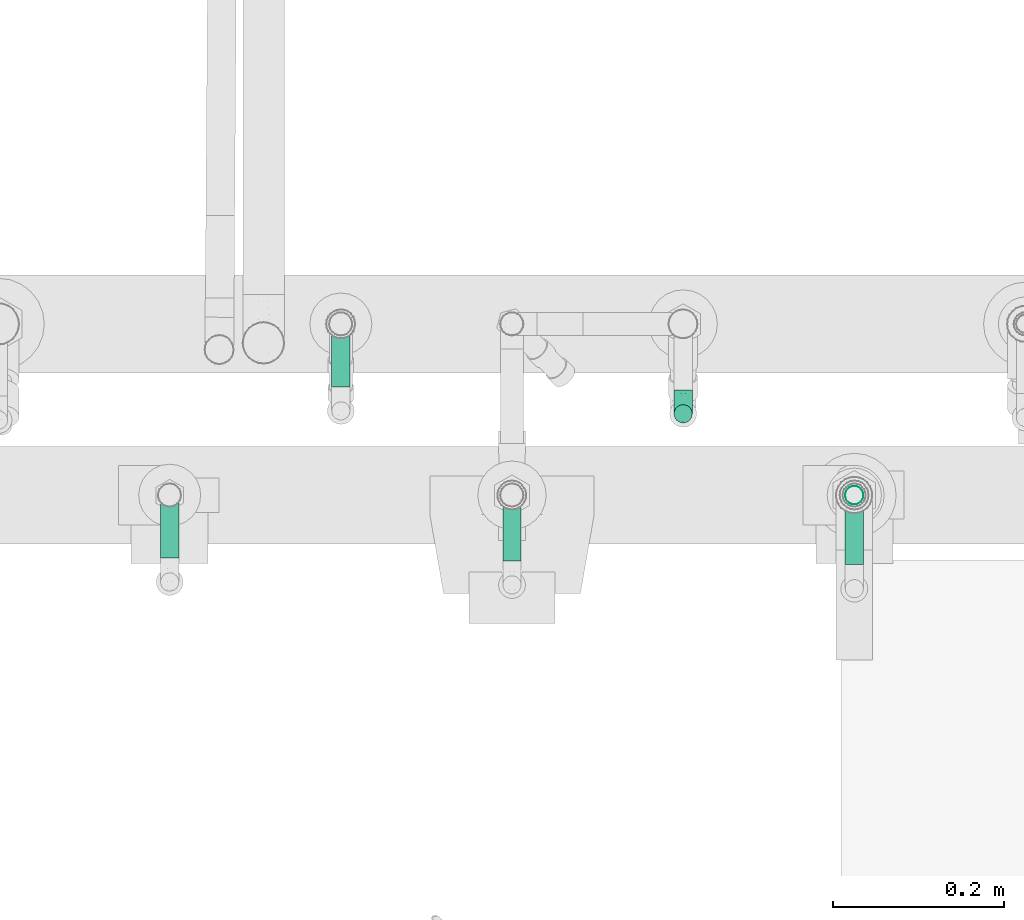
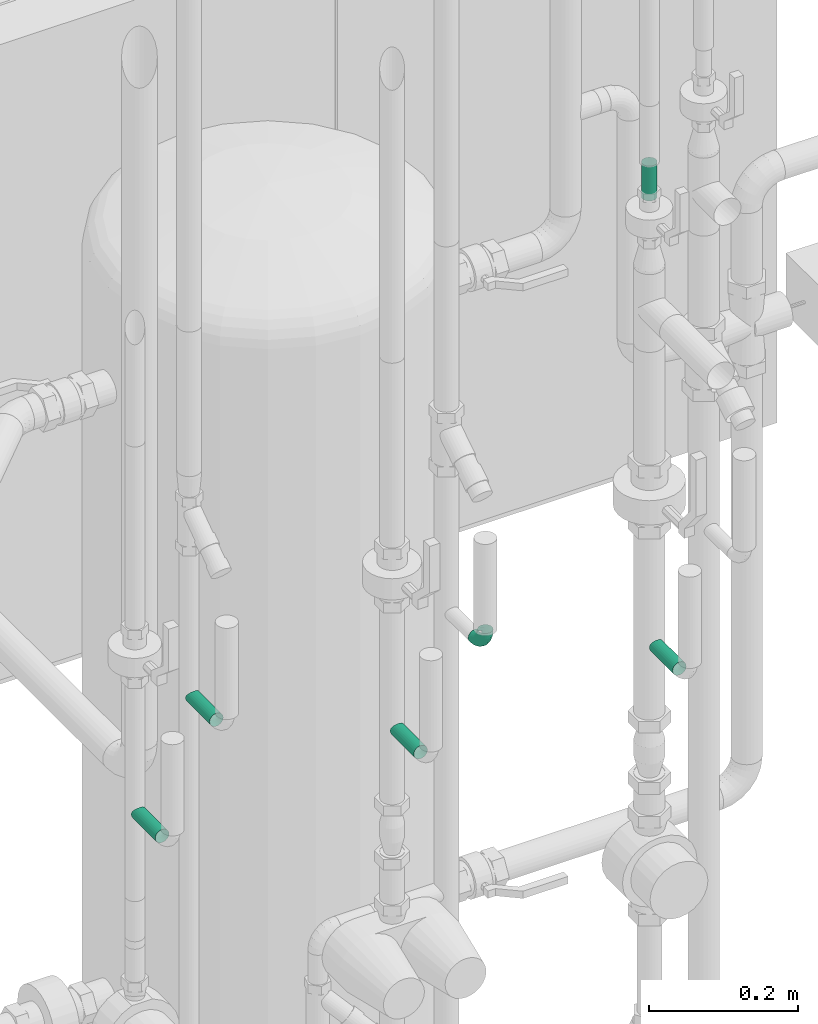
# One storey, part 193 of 374: 6 flow segments.
"""IFC2X3 building model written with IfcOpenShell, lengths in metres."""

from ifc_helpers import new_model, si_unit, direction, origin, place, context, subcontext, project, spatial, open_shell, surface_model, source, transform, mapped, element, save


model = new_model("IFC2X3")

# Units and contexts
model_context = context("Model", 3, precision=1e-05, world=origin(), true_north=direction((-0.4480736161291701, 0.8939966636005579)))
body_context = subcontext(model_context, "Body", "Model", "MODEL_VIEW")
ifc_project = project(units=[si_unit("LENGTHUNIT", "METRE"), si_unit("AREAUNIT", "SQUARE_METRE"), si_unit("VOLUMEUNIT", "CUBIC_METRE"), si_unit("PLANEANGLEUNIT", "RADIAN"), si_unit("THERMODYNAMICTEMPERATUREUNIT", "KELVIN"), si_unit("MASSUNIT", "GRAM", prefix="KILO"), si_unit("TIMEUNIT", "SECOND")], contexts=[model_context])

# Site, building, storey
site_placement = place(None, origin())
site = spatial("IfcSite", under=ifc_project, at=site_placement, Name="Site 1", CompositionType="ELEMENT")
building_placement = place(site_placement, origin())
building = spatial("IfcBuilding", under=site, at=building_placement, Name="Undefined", CompositionType="ELEMENT")
storey_placement = place(building_placement, origin())
storey = spatial("IfcBuildingStorey", under=building, at=storey_placement, Name="Rez de chauss\x8ee", CompositionType="ELEMENT", Elevation=0.0)

# Flow segments
shared_shape_1 = source(origin(), body_context, "Body", "SurfaceModel", [
    surface_model("IfcFaceBasedSurfaceModel", [(1.776356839e-15, 0.0027802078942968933, 0.0), (0.0, 0.0, 0.0), (0.06022698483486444, -7.105427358e-15, 1.776356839e-15), (0.060000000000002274, 0.0027802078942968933, 0.0), (0.0, -0.002685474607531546, -0.0007195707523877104), (0.06086354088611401, -0.0026854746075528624, -0.0007195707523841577), (1.776356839e-15, -0.00509320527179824, -0.002109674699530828), (0.0617764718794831, -0.0050932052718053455, -0.0021096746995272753), (1.776356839e-15, -0.007059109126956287, -0.004075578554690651), (0.06274838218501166, -0.0070591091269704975, -0.004075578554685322), (0.0, -0.00844921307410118, -0.00648330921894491), (0.063504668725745, -0.00844921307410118, -0.006483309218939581), (0.0, -0.009168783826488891, -0.009168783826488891), (0.0637924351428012, -0.009168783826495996, -0.009168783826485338), (0.0, -0.009168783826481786, -0.011948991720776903), (0.063504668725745, -0.009168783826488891, -0.011948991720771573), (1.776356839e-15, -0.00844921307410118, -0.014634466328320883), (0.06274838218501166, -0.008449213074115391, -0.01463446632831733), (1.776356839e-15, -0.007059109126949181, -0.017042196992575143), (0.0617764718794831, -0.007059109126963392, -0.01704219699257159), (0.0, -0.005093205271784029, -0.019008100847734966), (0.06086354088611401, -0.005093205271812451, -0.019008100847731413), (0.0, -0.0026854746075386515, -0.020398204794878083), (0.06022698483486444, -0.0026854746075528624, -0.02039820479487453), (1.776356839e-15, 7.105427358e-15, -0.021117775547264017), (0.060000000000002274, 7.105427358e-15, -0.021117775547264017), (1.776356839e-15, 0.002780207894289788, -0.02111777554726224), (0.06022698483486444, 0.002780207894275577, -0.021117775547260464), (1.776356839e-15, 0.005465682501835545, -0.020398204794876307), (0.06086354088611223, 0.005465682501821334, -0.020398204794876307), (1.776356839e-15, 0.007873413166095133, -0.01900810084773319), (0.0617764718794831, 0.007873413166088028, -0.01900810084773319), (0.0, 0.00983931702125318, -0.017042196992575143), (0.06274838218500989, 0.009839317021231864, -0.017042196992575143), (1.776356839e-15, 0.011229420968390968, -0.01463446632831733), (0.06350466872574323, 0.011229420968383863, -0.014634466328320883), (1.776356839e-15, 0.011948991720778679, -0.011948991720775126), (0.06379243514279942, 0.011948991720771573, -0.011948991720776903), (1.776356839e-15, 0.011948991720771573, -0.009168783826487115), (0.06350466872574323, 0.011948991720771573, -0.009168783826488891), (0.0, 0.011229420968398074, -0.006483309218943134), (0.06274838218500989, 0.011229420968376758, -0.006483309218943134), (1.776356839e-15, 0.009839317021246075, -0.0040755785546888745), (0.0617764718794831, 0.009839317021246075, -0.0040755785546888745), (1.776356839e-15, 0.007873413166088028, -0.0021096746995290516), (0.06086354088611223, 0.007873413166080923, -0.002109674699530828), (1.776356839e-15, 0.005465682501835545, -0.000719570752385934), (0.06022698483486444, 0.005465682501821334, -0.0007195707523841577)], [open_shell([[[0, 1, 2, 3]], [[1, 4, 5, 2]], [[4, 6, 7, 5]], [[6, 8, 9, 7]], [[8, 10, 11, 9]], [[10, 12, 13, 11]], [[12, 14, 15, 13]], [[14, 16, 17, 15]], [[16, 18, 19, 17]], [[18, 20, 21, 19]], [[20, 22, 23, 21]], [[22, 24, 25, 23]], [[24, 26, 27, 25]], [[26, 28, 29, 27]], [[28, 30, 31, 29]], [[30, 32, 33, 31]], [[32, 34, 35, 33]], [[34, 36, 37, 35]], [[36, 38, 39, 37]], [[38, 40, 41, 39]], [[40, 42, 43, 41]], [[42, 44, 45, 43]], [[44, 46, 47, 45]], [[46, 0, 3, 47]]])]),
])
flow_segment_1_placement = place(storey_placement, origin())
element("IfcFlowSegment", 1, at=flow_segment_1_placement, inside=storey, Name="Piquage sur circulaire 90°", ObjectType="Piquage sur circulaire 90°", context=body_context, shape_type="MappedRepresentation", body=[
    mapped(shared_shape_1, transform((53.26031844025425, 10.6411870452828, 1.475506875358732), x_axis=(0.0, 1.0, 0.0), y_axis=(-0.9914448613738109, 0.0, 0.1305261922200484), z_axis=(0.1305261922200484, 0.0, 0.9914448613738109))),
])
shared_shape_2 = source(origin(), body_context, "Body", "SurfaceModel", [
    surface_model("IfcFaceBasedSurfaceModel", [(0.010089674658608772, 0.0, 1.33226763e-15), (0.010042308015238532, 0.002779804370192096, 1.33226763e-15), (4.73666433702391e-05, 0.0027798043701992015, 4.4408921e-16), (0.0, 0.0, 0.0), (-0.009607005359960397, 0.00311462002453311, -0.0025651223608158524), (-0.00974587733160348, 0.0003379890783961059, -0.0025894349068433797), (-0.01826287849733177, 0.003761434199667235, -0.007520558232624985), (-0.018483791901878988, 0.000990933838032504, -0.007591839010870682), (-0.025330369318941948, 0.004676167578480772, -0.014528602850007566), (-0.025618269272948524, 0.001914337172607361, -0.014666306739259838), (-0.030327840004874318, 0.005796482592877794, -0.023111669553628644), (-0.030663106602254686, 0.003045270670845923, -0.023330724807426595), (-0.03291472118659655, 0.00704603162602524, -0.03268483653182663), (-0.03327450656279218, 0.004306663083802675, -0.0329946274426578), (0.009903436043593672, 0.005463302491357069, -0.000713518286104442), (0.000186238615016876, 0.005463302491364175, -0.0007135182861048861), (-0.009199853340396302, 0.005788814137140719, -0.0032073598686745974), (-0.017615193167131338, 0.006417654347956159, -0.008025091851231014), (-0.02448628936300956, 0.007306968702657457, -0.014838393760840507), (-0.029344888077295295, 0.008396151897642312, -0.023182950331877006), (-0.031859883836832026, 0.009610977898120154, -0.0324900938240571), (0.009682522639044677, 0.007867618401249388, -0.002091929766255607), (0.0004071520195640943, 0.007867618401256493, -0.002091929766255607), (-0.008552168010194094, 0.008178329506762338, -0.004472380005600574), (-0.0165848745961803, 0.008778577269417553, -0.00907105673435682), (-0.023143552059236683, 0.00962745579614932, -0.015574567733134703), (-0.027781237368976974, 0.010667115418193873, -0.023539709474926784), (-0.030181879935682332, 0.011826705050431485, -0.03242367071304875), (0.009394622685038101, 0.009828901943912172, -0.0040412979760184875), (0.000695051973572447, 0.009828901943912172, -0.0040412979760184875), (-0.007708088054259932, 0.010120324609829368, -0.006273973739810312), (-0.015242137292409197, 0.010683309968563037, -0.010587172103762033), (-0.02139366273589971, 0.011479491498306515, -0.01668695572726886), (-0.0257434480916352, 0.012454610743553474, -0.02415763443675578), (-0.027995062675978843, 0.013542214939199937, -0.03249009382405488), (0.00905935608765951, 0.011213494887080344, -0.006428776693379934), (0.0010303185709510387, 0.01121349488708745, -0.006428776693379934), (-0.006725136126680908, 0.011482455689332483, -0.00848936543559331), (-0.0136784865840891, 0.01200204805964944, -0.01247011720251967), (-0.01935587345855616, 0.012736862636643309, -0.018099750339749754), (-0.02337039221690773, 0.013636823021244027, -0.024994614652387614), (-0.02544846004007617, 0.014640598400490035, -0.03268483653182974), (0.008699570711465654, 0.01192703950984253, -0.009091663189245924), (0.001390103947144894, 0.01192703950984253, -0.009091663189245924), (-0.005670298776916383, 0.01217189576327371, -0.010967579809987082), (-0.01200048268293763, 0.012644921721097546, -0.014591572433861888), (-0.017169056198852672, 0.013313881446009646, -0.01971667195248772), (-0.02082378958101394, 0.014133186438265, -0.025993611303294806), (-0.02271561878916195, 0.01504700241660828, -0.032994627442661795), (0.008339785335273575, 0.011920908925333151, -0.011848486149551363), (0.0017498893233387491, 0.011920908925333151, -0.011848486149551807), (-0.0046154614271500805, 0.012141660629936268, -0.013539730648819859), (-0.01032247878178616, 0.012568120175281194, -0.016806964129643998), (-0.014982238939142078, 0.013171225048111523, -0.02142753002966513), (-0.018277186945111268, 0.01390987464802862, -0.027086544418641), (-0.01998277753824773, 0.01473373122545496, -0.033398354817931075), (0.008004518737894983, 0.011195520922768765, -0.01451137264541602), (0.0020851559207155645, 0.011195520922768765, -0.014511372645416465), (-0.003632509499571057, 0.011393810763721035, -0.016030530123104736), (-0.008758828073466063, 0.011776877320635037, -0.018965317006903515), (-0.01294444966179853, 0.012318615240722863, -0.023115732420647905), (-0.01590413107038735, 0.012982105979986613, -0.028198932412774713), (-0.017436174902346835, 0.013722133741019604, -0.03386850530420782), (0.007716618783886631, 0.009800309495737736, -0.016898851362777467), (0.002373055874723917, 0.009800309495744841, -0.016898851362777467), (-0.0027884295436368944, 0.009979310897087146, -0.018270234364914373), (-0.007416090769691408, 0.010325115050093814, -0.020919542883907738), (-0.01119456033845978, 0.010814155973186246, -0.024666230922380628), (-0.013866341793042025, 0.011413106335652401, -0.02925496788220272), (-0.015249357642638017, 0.012081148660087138, -0.03437303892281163), (0.007495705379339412, 0.007830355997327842, -0.018848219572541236), (0.002593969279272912, 0.007830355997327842, -0.018848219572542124), (-0.00214074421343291, 0.00799455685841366, -0.02010621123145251), (-0.006385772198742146, 0.008311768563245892, -0.022536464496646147), (-0.009851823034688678, 0.008760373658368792, -0.025973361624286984), (-0.012302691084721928, 0.00930980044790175, -0.03018268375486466), (-0.013571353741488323, 0.009922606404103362, -0.034877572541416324), (0.007356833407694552, 0.0054199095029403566, -0.020226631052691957), (0.002732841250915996, 0.005419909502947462, -0.0202266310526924), (-0.0017335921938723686, 0.005574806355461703, -0.021413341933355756), (-0.005738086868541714, 0.005874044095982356, -0.023705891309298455), (-0.009007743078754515, 0.006297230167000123, -0.026948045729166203), (-0.011319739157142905, 0.006815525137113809, -0.030918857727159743), (-0.012516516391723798, 0.007393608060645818, -0.03534772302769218), (0.007309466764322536, 0.0027332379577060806, -0.020940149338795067), (0.0027802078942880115, 0.002733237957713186, -0.020940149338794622), (-0.001594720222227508, 0.0028849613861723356, -0.022102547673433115), (-0.0055171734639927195, 0.0031780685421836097, -0.024348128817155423), (-0.008719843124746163, 0.003592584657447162, -0.027523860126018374), (-0.010984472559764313, 0.004100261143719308, -0.03141332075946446), (-0.012156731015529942, 0.004666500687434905, -0.035751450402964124), (0.007356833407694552, -4.656641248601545e-05, -0.020940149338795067), (0.002732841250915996, -4.6566412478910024e-05, -0.02094014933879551), (-0.0017335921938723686, 0.00010833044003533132, -0.022126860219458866), (-0.005738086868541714, 0.00040756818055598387, -0.024419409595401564), (-0.009007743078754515, 0.0008307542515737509, -0.027661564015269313), (-0.011319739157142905, 0.0013490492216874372, -0.03163237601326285), (-0.012516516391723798, 0.0019271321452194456, -0.03606124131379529), (0.007495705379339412, -0.002730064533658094, -0.020226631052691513), (0.002593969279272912, -0.002730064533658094, -0.0202266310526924), (-0.00214074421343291, -0.002565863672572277, -0.021484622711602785), (-0.006385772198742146, -0.002248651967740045, -0.023914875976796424), (-0.009851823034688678, -0.0018000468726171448, -0.02735177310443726), (-0.012302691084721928, -0.0012506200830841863, -0.031561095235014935), (-0.013571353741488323, -0.0006378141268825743, -0.0362559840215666), (0.007716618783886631, -0.005134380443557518, -0.01884821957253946), (0.002373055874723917, -0.0051343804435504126, -0.01884821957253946), (-0.0027884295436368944, -0.004955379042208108, -0.020219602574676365), (-0.007416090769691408, -0.00460957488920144, -0.02286891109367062), (-0.01119456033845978, -0.004120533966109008, -0.026615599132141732), (-0.013866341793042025, -0.0035215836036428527, -0.031204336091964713), (-0.015249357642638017, -0.002853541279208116, -0.03632240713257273), (0.008004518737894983, -0.007095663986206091, -0.01689885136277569), (0.0020851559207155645, -0.007095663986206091, -0.016898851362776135), (-0.003632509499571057, -0.006897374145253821, -0.018418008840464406), (-0.008758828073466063, -0.006514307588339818, -0.021352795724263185), (-0.01294444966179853, -0.005972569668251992, -0.025503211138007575), (-0.01590413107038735, -0.005309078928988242, -0.030586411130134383), (-0.017436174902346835, -0.0045690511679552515, -0.03625598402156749), (0.008339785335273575, -0.008480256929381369, -0.014511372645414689), (0.0017498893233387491, -0.008480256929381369, -0.014511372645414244), (-0.0046154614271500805, -0.008259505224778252, -0.016202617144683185), (-0.01032247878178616, -0.007833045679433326, -0.019469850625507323), (-0.014982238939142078, -0.007229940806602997, -0.024090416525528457), (-0.018277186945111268, -0.006491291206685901, -0.029749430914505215), (-0.01998277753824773, -0.00566743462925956, -0.0360612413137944), (0.008699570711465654, -0.009193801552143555, -0.011848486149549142), (0.001390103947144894, -0.009193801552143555, -0.011848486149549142), (-0.005670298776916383, -0.008948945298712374, -0.013724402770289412), (-0.01200048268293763, -0.008475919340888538, -0.017348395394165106), (-0.017169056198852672, -0.007806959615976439, -0.022473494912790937), (-0.02082378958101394, -0.006987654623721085, -0.028750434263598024), (-0.02271561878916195, -0.006073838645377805, -0.035751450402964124), (0.00905935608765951, -0.009187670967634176, -0.00909166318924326), (0.0010303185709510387, -0.00918767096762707, -0.00909166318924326), (-0.006725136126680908, -0.008918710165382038, -0.011152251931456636), (-0.0136784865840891, -0.00839911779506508, -0.015133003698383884), (-0.01935587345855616, -0.007664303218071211, -0.02076263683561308), (-0.02337039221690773, -0.006764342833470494, -0.02765750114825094), (-0.02544846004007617, -0.005760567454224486, -0.03534772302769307), (0.009394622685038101, -0.008462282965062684, -0.006428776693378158), (0.000695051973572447, -0.008462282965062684, -0.006428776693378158), (-0.007708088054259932, -0.008170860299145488, -0.008661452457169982), (-0.015242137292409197, -0.0076078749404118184, -0.012974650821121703), (-0.02139366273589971, -0.00681169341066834, -0.01907443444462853), (-0.0257434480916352, -0.005836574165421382, -0.02654511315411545), (-0.027995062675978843, -0.004748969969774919, -0.03487757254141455), (0.009682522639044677, -0.007067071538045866, -0.004041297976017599), (0.0004071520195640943, -0.0070670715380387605, -0.004041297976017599), (-0.008552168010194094, -0.006756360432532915, -0.006421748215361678), (-0.0165848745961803, -0.0061561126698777, -0.011020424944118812), (-0.023143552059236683, -0.0053072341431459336, -0.017523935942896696), (-0.027781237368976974, -0.0042675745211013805, -0.02548907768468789), (-0.030181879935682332, -0.0031079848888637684, -0.03437303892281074), (0.009903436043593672, -0.005097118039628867, -0.0020919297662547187), (0.000186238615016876, -0.005097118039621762, -0.002091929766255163), (-0.009199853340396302, -0.004771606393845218, -0.004585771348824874), (-0.017615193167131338, -0.004142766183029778, -0.009403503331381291), (-0.02448628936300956, -0.0032534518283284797, -0.016216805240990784), (-0.029344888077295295, -0.0021642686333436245, -0.024561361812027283), (-0.031859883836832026, -0.0009494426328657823, -0.033868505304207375), (0.010042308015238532, -0.002686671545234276, -0.0007135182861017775), (4.73666433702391e-05, -0.0026866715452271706, -0.0007135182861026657), (-0.009607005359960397, -0.002351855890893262, -0.003278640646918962), (-0.01826287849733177, -0.0017050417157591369, -0.008234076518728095), (-0.025330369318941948, -0.0007903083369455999, -0.015242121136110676), (-0.030327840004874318, 0.0003300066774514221, -0.023825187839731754), (-0.03291472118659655, 0.0015795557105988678, -0.03339835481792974)], [open_shell([[[0, 1, 2, 3]], [[3, 2, 4, 5]], [[5, 4, 6, 7]], [[7, 6, 8, 9]], [[9, 8, 10, 11]], [[11, 10, 12, 13]], [[1, 14, 15, 2]], [[2, 15, 16, 4]], [[4, 16, 17, 6]], [[6, 17, 18, 8]], [[8, 18, 19, 10]], [[10, 19, 20, 12]], [[14, 21, 22, 15]], [[15, 22, 23, 16]], [[16, 23, 24, 17]], [[17, 24, 25, 18]], [[18, 25, 26, 19]], [[19, 26, 27, 20]], [[21, 28, 29, 22]], [[22, 29, 30, 23]], [[23, 30, 31, 24]], [[24, 31, 32, 25]], [[25, 32, 33, 26]], [[26, 33, 34, 27]], [[28, 35, 36, 29]], [[29, 36, 37, 30]], [[30, 37, 38, 31]], [[31, 38, 39, 32]], [[32, 39, 40, 33]], [[33, 40, 41, 34]], [[35, 42, 43, 36]], [[36, 43, 44, 37]], [[37, 44, 45, 38]], [[38, 45, 46, 39]], [[39, 46, 47, 40]], [[40, 47, 48, 41]], [[42, 49, 50, 43]], [[43, 50, 51, 44]], [[44, 51, 52, 45]], [[45, 52, 53, 46]], [[46, 53, 54, 47]], [[47, 54, 55, 48]], [[49, 56, 57, 50]], [[50, 57, 58, 51]], [[51, 58, 59, 52]], [[52, 59, 60, 53]], [[53, 60, 61, 54]], [[54, 61, 62, 55]], [[56, 63, 64, 57]], [[57, 64, 65, 58]], [[58, 65, 66, 59]], [[59, 66, 67, 60]], [[60, 67, 68, 61]], [[61, 68, 69, 62]], [[63, 70, 71, 64]], [[64, 71, 72, 65]], [[65, 72, 73, 66]], [[66, 73, 74, 67]], [[67, 74, 75, 68]], [[68, 75, 76, 69]], [[70, 77, 78, 71]], [[71, 78, 79, 72]], [[72, 79, 80, 73]], [[73, 80, 81, 74]], [[74, 81, 82, 75]], [[75, 82, 83, 76]], [[77, 84, 85, 78]], [[78, 85, 86, 79]], [[79, 86, 87, 80]], [[80, 87, 88, 81]], [[81, 88, 89, 82]], [[82, 89, 90, 83]], [[84, 91, 92, 85]], [[85, 92, 93, 86]], [[86, 93, 94, 87]], [[87, 94, 95, 88]], [[88, 95, 96, 89]], [[89, 96, 97, 90]], [[91, 98, 99, 92]], [[92, 99, 100, 93]], [[93, 100, 101, 94]], [[94, 101, 102, 95]], [[95, 102, 103, 96]], [[96, 103, 104, 97]], [[98, 105, 106, 99]], [[99, 106, 107, 100]], [[100, 107, 108, 101]], [[101, 108, 109, 102]], [[102, 109, 110, 103]], [[103, 110, 111, 104]], [[105, 112, 113, 106]], [[106, 113, 114, 107]], [[107, 114, 115, 108]], [[108, 115, 116, 109]], [[109, 116, 117, 110]], [[110, 117, 118, 111]], [[112, 119, 120, 113]], [[113, 120, 121, 114]], [[114, 121, 122, 115]], [[115, 122, 123, 116]], [[116, 123, 124, 117]], [[117, 124, 125, 118]], [[119, 126, 127, 120]], [[120, 127, 128, 121]], [[121, 128, 129, 122]], [[122, 129, 130, 123]], [[123, 130, 131, 124]], [[124, 131, 132, 125]], [[126, 133, 134, 127]], [[127, 134, 135, 128]], [[128, 135, 136, 129]], [[129, 136, 137, 130]], [[130, 137, 138, 131]], [[131, 138, 139, 132]], [[133, 140, 141, 134]], [[134, 141, 142, 135]], [[135, 142, 143, 136]], [[136, 143, 144, 137]], [[137, 144, 145, 138]], [[138, 145, 146, 139]], [[140, 147, 148, 141]], [[141, 148, 149, 142]], [[142, 149, 150, 143]], [[143, 150, 151, 144]], [[144, 151, 152, 145]], [[145, 152, 153, 146]], [[147, 154, 155, 148]], [[148, 155, 156, 149]], [[149, 156, 157, 150]], [[150, 157, 158, 151]], [[151, 158, 159, 152]], [[152, 159, 160, 153]], [[154, 161, 162, 155]], [[155, 162, 163, 156]], [[156, 163, 164, 157]], [[157, 164, 165, 158]], [[158, 165, 166, 159]], [[159, 166, 167, 160]], [[161, 0, 3, 162]], [[162, 3, 5, 163]], [[163, 5, 7, 164]], [[164, 7, 9, 165]], [[165, 9, 11, 166]], [[166, 11, 13, 167]]])]),
])
flow_segment_2_placement = place(storey_placement, origin())
element("IfcFlowSegment", 2, at=flow_segment_2_placement, inside=storey, Name="Tube coudé", ObjectType="Tube coudé", context=body_context, shape_type="MappedRepresentation", body=[
    mapped(shared_shape_2, transform((53.45756201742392, 10.831183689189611, 1.4558867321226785), x_axis=(0.0, 0.9914448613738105, -0.13052619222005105), y_axis=(0.9915887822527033, 0.016893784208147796, 0.12832103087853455), z_axis=(0.1294283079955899, -0.12942830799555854, -0.9831056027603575))),
])
shared_shape_3 = source(origin(), body_context, "Body", "SurfaceModel", [
    surface_model("IfcFaceBasedSurfaceModel", [(1.776356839e-15, 0.0027802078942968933, 0.0), (0.0, 0.0, 0.0), (0.060285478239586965, 0.0, 0.0), (0.060000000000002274, 0.0027802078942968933, 0.0), (0.0, -0.002685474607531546, -0.0007195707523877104), (0.06109901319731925, -0.002685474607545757, -0.0007195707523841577), (1.776356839e-15, -0.00509320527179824, -0.002109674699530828), (0.062305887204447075, -0.00509320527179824, -0.002109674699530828), (1.776356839e-15, -0.007059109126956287, -0.004075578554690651), (0.06366043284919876, -0.007059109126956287, -0.004075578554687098), (0.0, -0.00844921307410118, -0.00648330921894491), (0.06478525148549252, -0.008449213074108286, -0.006483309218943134), (0.0, -0.009168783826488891, -0.009168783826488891), (0.06523537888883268, -0.009168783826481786, -0.009168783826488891), (0.0, -0.009168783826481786, -0.011948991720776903), (0.06478525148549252, -0.009168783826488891, -0.011948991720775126), (1.776356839e-15, -0.00844921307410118, -0.014634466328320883), (0.06366043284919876, -0.00844921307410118, -0.014634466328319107), (1.776356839e-15, -0.007059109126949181, -0.017042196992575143), (0.062305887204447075, -0.007059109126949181, -0.017042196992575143), (0.0, -0.005093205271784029, -0.019008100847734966), (0.06109901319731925, -0.00509320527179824, -0.019008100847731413), (0.0, -0.0026854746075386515, -0.020398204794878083), (0.060285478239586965, -0.002685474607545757, -0.020398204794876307), (1.776356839e-15, 7.105427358e-15, -0.021117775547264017), (0.060000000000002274, 7.105427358e-15, -0.021117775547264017), (1.776356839e-15, 0.002780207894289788, -0.02111777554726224), (0.060285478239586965, 0.0027802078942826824, -0.021117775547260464), (1.776356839e-15, 0.005465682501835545, -0.020398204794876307), (0.06109901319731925, 0.005465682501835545, -0.02039820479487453), (1.776356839e-15, 0.007873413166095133, -0.01900810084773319), (0.062305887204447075, 0.007873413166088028, -0.019008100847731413), (0.0, 0.00983931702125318, -0.017042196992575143), (0.06366043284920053, 0.009839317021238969, -0.01704219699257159), (1.776356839e-15, 0.011229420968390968, -0.01463446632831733), (0.0647852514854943, 0.011229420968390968, -0.01463446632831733), (1.776356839e-15, 0.011948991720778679, -0.011948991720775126), (0.06523537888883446, 0.011948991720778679, -0.01194899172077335), (1.776356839e-15, 0.011948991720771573, -0.009168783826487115), (0.0647852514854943, 0.011948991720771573, -0.009168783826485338), (0.0, 0.011229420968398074, -0.006483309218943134), (0.06366043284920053, 0.011229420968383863, -0.006483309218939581), (1.776356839e-15, 0.009839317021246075, -0.0040755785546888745), (0.062305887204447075, 0.009839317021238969, -0.004075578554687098), (1.776356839e-15, 0.007873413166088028, -0.0021096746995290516), (0.06109901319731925, 0.007873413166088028, -0.0021096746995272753), (1.776356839e-15, 0.005465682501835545, -0.000719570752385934), (0.060285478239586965, 0.005465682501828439, -0.0007195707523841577)], [open_shell([[[0, 1, 2, 3]], [[1, 4, 5, 2]], [[4, 6, 7, 5]], [[6, 8, 9, 7]], [[8, 10, 11, 9]], [[10, 12, 13, 11]], [[12, 14, 15, 13]], [[14, 16, 17, 15]], [[16, 18, 19, 17]], [[18, 20, 21, 19]], [[20, 22, 23, 21]], [[22, 24, 25, 23]], [[24, 26, 27, 25]], [[26, 28, 29, 27]], [[28, 30, 31, 29]], [[30, 32, 33, 31]], [[32, 34, 35, 33]], [[34, 36, 37, 35]], [[36, 38, 39, 37]], [[38, 40, 41, 39]], [[40, 42, 43, 41]], [[42, 44, 45, 43]], [[44, 46, 47, 45]], [[46, 0, 3, 47]]])]),
])
flow_segment_3_placement = place(storey_placement, origin())
element("IfcFlowSegment", 3, at=flow_segment_3_placement, inside=storey, Name="Piquage sur circulaire 90°", ObjectType="Piquage sur circulaire 90°", context=body_context, shape_type="MappedRepresentation", body=[
    mapped(shared_shape_3, transform((52.86031844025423, 10.644587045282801, 1.475506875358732), x_axis=(0.0, 1.0, 0.0), y_axis=(-0.9914448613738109, 0.0, 0.1305261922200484), z_axis=(0.1305261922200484, 0.0, 0.9914448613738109))),
])
flow_segment_4_placement = place(storey_placement, origin())
element("IfcFlowSegment", 4, at=flow_segment_4_placement, inside=storey, Name="Piquage sur circulaire 90°", ObjectType="Piquage sur circulaire 90°", context=body_context, shape_type="MappedRepresentation", body=[
    mapped(shared_shape_3, transform((53.06031844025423, 10.84458704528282, 1.4755068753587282), x_axis=(0.0, 1.0, 0.0), y_axis=(-0.9914448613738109, 0.0, 0.1305261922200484), z_axis=(0.1305261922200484, 0.0, 0.9914448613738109))),
])
shared_shape_4 = source(origin(), body_context, "Body", "SurfaceModel", [
    surface_model("IfcFaceBasedSurfaceModel", [(1.776356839e-15, 0.0027802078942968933, 0.0), (0.0, 0.0, 0.0), (0.06017995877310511, 0.0, 0.0), (0.060000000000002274, 0.0027802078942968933, 0.0), (0.0, -0.002685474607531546, -0.0007195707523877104), (0.06067965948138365, -0.0026854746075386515, -0.0007195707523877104), (1.776356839e-15, -0.00509320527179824, -0.002109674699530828), (0.06138261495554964, -0.0050932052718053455, -0.002109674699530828), (1.776356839e-15, -0.007059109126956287, -0.004075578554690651), (0.062111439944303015, -0.007059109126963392, -0.0040755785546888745), (0.0, -0.00844921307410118, -0.00648330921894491), (0.06266313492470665, -0.00844921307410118, -0.00648330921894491), (0.0, -0.009168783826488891, -0.009168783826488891), (0.06286921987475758, -0.009168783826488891, -0.009168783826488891), (0.0, -0.009168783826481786, -0.011948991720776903), (0.06266313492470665, -0.009168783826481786, -0.011948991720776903), (1.776356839e-15, -0.00844921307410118, -0.014634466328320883), (0.062111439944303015, -0.008449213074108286, -0.014634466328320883), (1.776356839e-15, -0.007059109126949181, -0.017042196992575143), (0.06138261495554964, -0.007059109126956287, -0.017042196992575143), (0.0, -0.005093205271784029, -0.019008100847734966), (0.06067965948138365, -0.005093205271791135, -0.019008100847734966), (0.0, -0.0026854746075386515, -0.020398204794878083), (0.06017995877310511, -0.002685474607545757, -0.020398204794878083), (1.776356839e-15, 7.105427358e-15, -0.021117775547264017), (0.060000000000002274, 7.105427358e-15, -0.021117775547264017), (1.776356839e-15, 0.002780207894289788, -0.02111777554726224), (0.06017995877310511, 0.002780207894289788, -0.021117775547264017), (1.776356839e-15, 0.005465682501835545, -0.020398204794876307), (0.06067965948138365, 0.005465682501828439, -0.02039820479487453), (1.776356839e-15, 0.007873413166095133, -0.01900810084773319), (0.06138261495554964, 0.007873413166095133, -0.01900810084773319), (0.0, 0.00983931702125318, -0.017042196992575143), (0.062111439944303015, 0.00983931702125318, -0.017042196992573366), (1.776356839e-15, 0.011229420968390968, -0.01463446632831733), (0.06266313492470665, 0.011229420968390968, -0.014634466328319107), (1.776356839e-15, 0.011948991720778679, -0.011948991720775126), (0.06286921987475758, 0.011948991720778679, -0.01194899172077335), (1.776356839e-15, 0.011948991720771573, -0.009168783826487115), (0.06266313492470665, 0.011948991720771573, -0.009168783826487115), (0.0, 0.011229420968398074, -0.006483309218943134), (0.062111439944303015, 0.011229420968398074, -0.006483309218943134), (1.776356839e-15, 0.009839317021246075, -0.0040755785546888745), (0.06138261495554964, 0.009839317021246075, -0.004075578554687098), (1.776356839e-15, 0.007873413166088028, -0.0021096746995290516), (0.06067965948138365, 0.007873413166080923, -0.0021096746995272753), (1.776356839e-15, 0.005465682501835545, -0.000719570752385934), (0.06017995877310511, 0.005465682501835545, -0.000719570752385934)], [open_shell([[[0, 1, 2, 3]], [[1, 4, 5, 2]], [[4, 6, 7, 5]], [[6, 8, 9, 7]], [[8, 10, 11, 9]], [[10, 12, 13, 11]], [[12, 14, 15, 13]], [[14, 16, 17, 15]], [[16, 18, 19, 17]], [[18, 20, 21, 19]], [[20, 22, 23, 21]], [[22, 24, 25, 23]], [[24, 26, 27, 25]], [[26, 28, 29, 27]], [[28, 30, 31, 29]], [[30, 32, 33, 31]], [[32, 34, 35, 33]], [[34, 36, 37, 35]], [[36, 38, 39, 37]], [[38, 40, 41, 39]], [[40, 42, 43, 41]], [[42, 44, 45, 43]], [[44, 46, 47, 45]], [[46, 0, 3, 47]]])]),
])
flow_segment_5_placement = place(storey_placement, origin())
element("IfcFlowSegment", 5, at=flow_segment_5_placement, inside=storey, Name="Piquage sur circulaire 90°", ObjectType="Piquage sur circulaire 90°", context=body_context, shape_type="MappedRepresentation", body=[
    mapped(shared_shape_4, transform((53.660318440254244, 10.636837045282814, 1.475506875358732), x_axis=(0.0, 1.0, 0.0), y_axis=(-0.9914448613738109, 0.0, 0.1305261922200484), z_axis=(0.1305261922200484, 0.0, 0.9914448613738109))),
])
shared_shape_5 = source(origin(), body_context, "Body", "SurfaceModel", [
    surface_model("IfcFaceBasedSurfaceModel", [(1.776356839e-15, 0.0027802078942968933, 0.0), (0.0, 0.0, 0.0), (0.05727120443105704, 0.0, 0.0), (0.05727120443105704, 0.0027802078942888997, 0.0), (0.0, -0.002685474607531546, -0.0007195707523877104), (0.05727120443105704, -0.0026854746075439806, -0.0007195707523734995), (1.776356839e-15, -0.00509320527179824, -0.002109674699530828), (0.05727120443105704, -0.0050932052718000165, -0.0021096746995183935), (1.776356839e-15, -0.007059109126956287, -0.004075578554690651), (0.05727120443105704, -0.007059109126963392, -0.00407557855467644), (0.0, -0.00844921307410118, -0.00648330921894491), (0.05727120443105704, -0.008449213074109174, -0.006483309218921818), (0.0, -0.009168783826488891, -0.009168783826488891), (0.05727120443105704, -0.009168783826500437, -0.009168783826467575), (0.0, -0.009168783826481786, -0.011948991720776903), (0.05727120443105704, -0.009168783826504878, -0.011948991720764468), (1.776356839e-15, -0.00844921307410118, -0.014634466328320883), (0.05727120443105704, -0.00844921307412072, -0.014634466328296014), (1.776356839e-15, -0.007059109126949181, -0.017042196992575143), (0.05727120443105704, -0.007059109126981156, -0.017042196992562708), (0.0, -0.005093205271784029, -0.019008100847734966), (0.05727120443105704, -0.005093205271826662, -0.01900810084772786), (0.0, -0.0026854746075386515, -0.020398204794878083), (0.05727120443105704, -0.0026854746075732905, -0.02039820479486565), (1.776356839e-15, 7.105427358e-15, -0.021117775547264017), (0.05727120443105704, -2.930988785e-14, -0.021117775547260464), (1.776356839e-15, 0.002780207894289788, -0.02111777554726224), (0.05727120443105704, 0.0027802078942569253, -0.021117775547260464), (1.776356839e-15, 0.005465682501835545, -0.020398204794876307), (0.05727120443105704, 0.00546568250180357, -0.020398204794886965), (1.776356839e-15, 0.007873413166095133, -0.01900810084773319), (0.05727120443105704, 0.00787341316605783, -0.01900810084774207), (0.0, 0.00983931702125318, -0.017042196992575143), (0.05727120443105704, 0.009839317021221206, -0.01704219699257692), (1.776356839e-15, 0.011229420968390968, -0.01463446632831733), (0.05727120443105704, 0.0112294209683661, -0.014634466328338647), (1.776356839e-15, 0.011948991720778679, -0.011948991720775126), (0.05727120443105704, 0.011948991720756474, -0.011948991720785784), (1.776356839e-15, 0.011948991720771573, -0.009168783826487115), (0.05727120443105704, 0.011948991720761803, -0.009168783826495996), (0.0, 0.011229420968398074, -0.006483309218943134), (0.05727120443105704, 0.011229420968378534, -0.006483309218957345), (1.776356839e-15, 0.009839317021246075, -0.0040755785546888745), (0.05727120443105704, 0.009839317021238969, -0.004075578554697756), (1.776356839e-15, 0.007873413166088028, -0.0021096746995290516), (0.05727120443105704, 0.007873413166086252, -0.0021096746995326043), (1.776356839e-15, 0.005465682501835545, -0.000719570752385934), (0.05727120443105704, 0.005465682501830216, -0.0007195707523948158)], [open_shell([[[0, 1, 2, 3]], [[1, 4, 5, 2]], [[4, 6, 7, 5]], [[6, 8, 9, 7]], [[8, 10, 11, 9]], [[10, 12, 13, 11]], [[12, 14, 15, 13]], [[14, 16, 17, 15]], [[16, 18, 19, 17]], [[18, 20, 21, 19]], [[20, 22, 23, 21]], [[22, 24, 25, 23]], [[24, 26, 27, 25]], [[26, 28, 29, 27]], [[28, 30, 31, 29]], [[30, 32, 33, 31]], [[32, 34, 35, 33]], [[34, 36, 37, 35]], [[36, 38, 39, 37]], [[38, 40, 41, 39]], [[40, 42, 43, 41]], [[42, 44, 45, 43]], [[44, 46, 47, 45]], [[46, 0, 3, 47]]])]),
])
flow_segment_6_placement = place(storey_placement, origin())
element("IfcFlowSegment", 6, at=flow_segment_6_placement, inside=storey, Name="Tube acier d'après DIN 2448", ObjectType="Tube acier d'après DIN 2448", context=body_context, shape_type="MappedRepresentation", body=[
    mapped(shared_shape_5, transform((53.64727490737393, 10.715280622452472, 2.191920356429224), x_axis=(0.0, 0.0, 1.0), y_axis=(-0.13052619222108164, 0.9914448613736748, 0.0), z_axis=(-0.9914448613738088, -0.13052619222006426, 0.0))),
])

save(model, "model.ifc")
